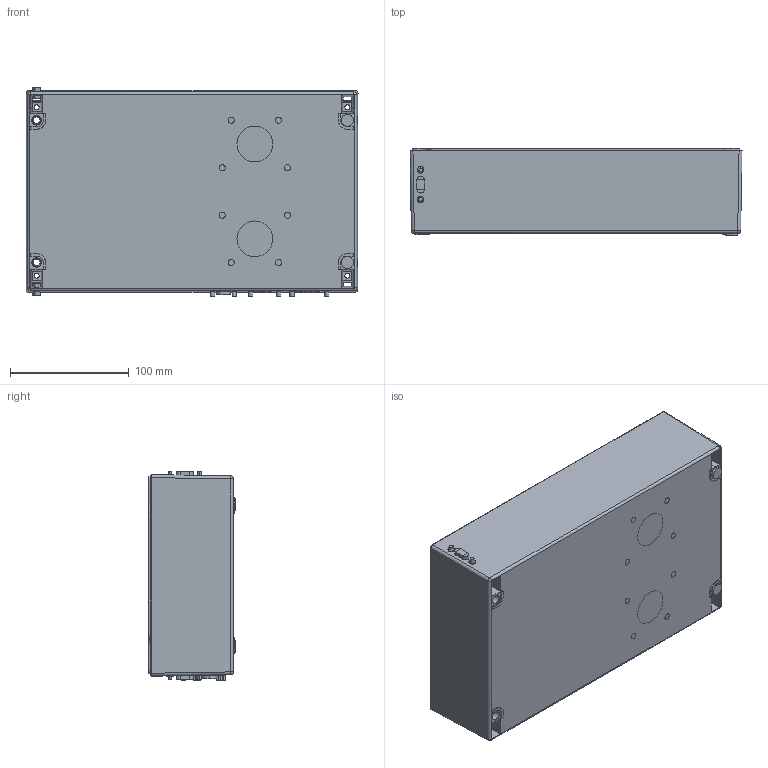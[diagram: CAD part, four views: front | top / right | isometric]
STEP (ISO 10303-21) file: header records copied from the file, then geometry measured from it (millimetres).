
FILE_DESCRIPTION(/* description */ ('VariCAD 2010-1.04 AP-203'),/* implementation_level */ '2;1');
FILE_NAME(/* name */ '0353-10-21',/* time_stamp */ '2010-02-02T22:54:19-07:00',/* author */ (''),/* organization */ (''),/* preprocessor_version */ 'ST-DEVELOPER v12',/* originating_system */ 'VariCAD 2010-1.04; kernel version (20090520)',/* authorisation */ '');
FILE_SCHEMA (('CONFIG_CONTROL_DESIGN'));
Products named in the file (1): Part
Bounding box: 279.97 x 73.5 x 176.99 mm (x, y, z)
Volume: 421792.8 mm3; surface area: 250039.9 mm2
Topology: 80 solids, 80 shells, 1308 faces, 3043 edges, 1937 vertices
Faces by surface type: plane 662, cylinder 316, bspline 238, cone 92
Entity records: 155103 total; most frequent: CARTESIAN_POINT 126364, ORIENTED_EDGE 6086, DIRECTION 5178, EDGE_CURVE 3043, VERTEX_POINT 1937, LINE 1930, VECTOR 1930, AXIS2_PLACEMENT_3D 1624
